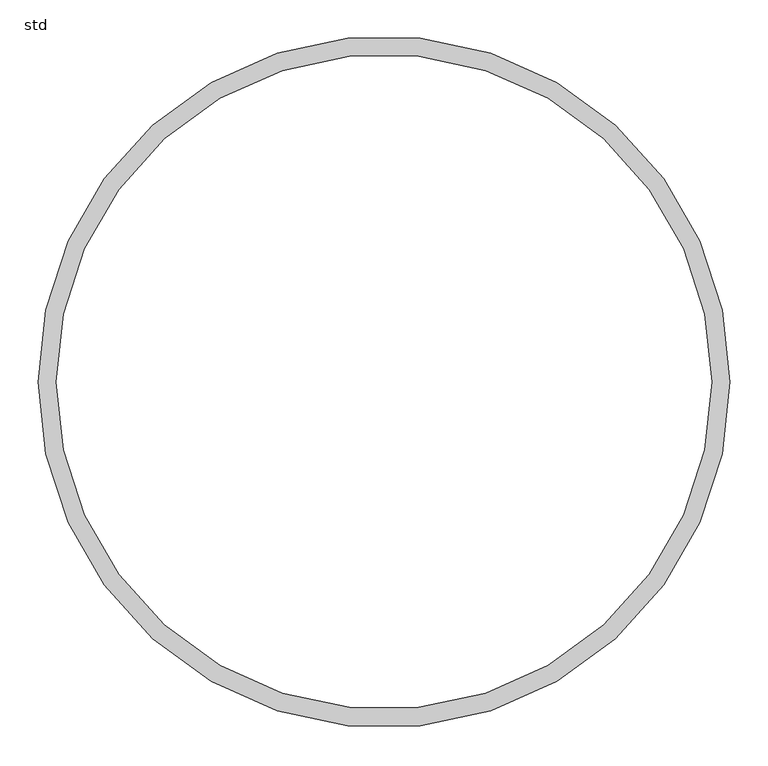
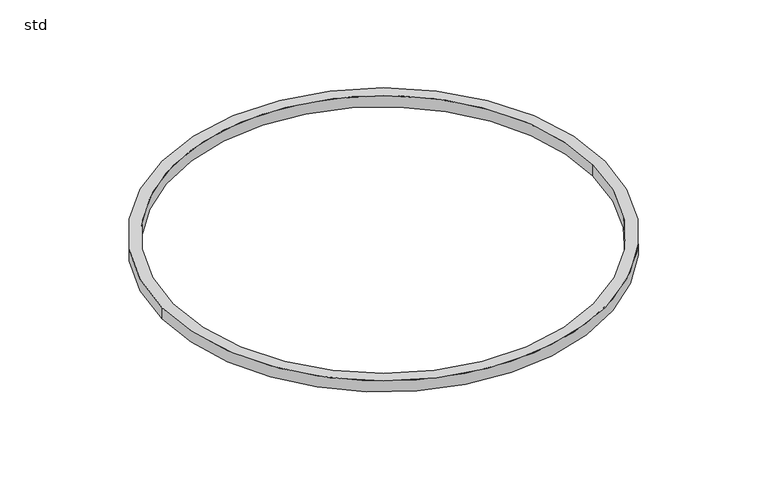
"""IFC4 building model written with IfcOpenShell, lengths in millimetres: pipe fitting geometry, NLRS_52_PIF_WPB_Ultra Kyma dichtingsring SH_Dyka : std."""

from ifc_helpers import new_model, si_unit, point, origin, origin_with_axes, origin_2d, place, context, project, spatial, circle_curve, trimmed, segment, composite_curve, outline, extrude, source, transform, mapped, element, save


def std_6883be76(model_context):
    return source(origin(), model_context, "Body", "SweptSolid", [
        extrude(outline(composite_curve([segment(trimmed(circle_curve(origin_2d(), 453.0), [point((-453.0, 0.0))], [point((453.0, 0.0))], False, "CARTESIAN"), True, "CONTINUOUS"), segment(trimmed(circle_curve(origin_2d(), 453.0), [point((453.0, 0.0))], [point((-453.0, 0.0))], False, "CARTESIAN"), True, "CONTINUOUS")], self_intersect=False), holes=[composite_curve([segment(trimmed(circle_curve(origin_2d(), 429.0), [point((429.0, 0.0))], [point((-429.0, 0.0))], True, "CARTESIAN"), True, "CONTINUOUS"), segment(trimmed(circle_curve(origin_2d(), 429.0), [point((-429.0, 0.0))], [point((429.0, 0.0))], True, "CARTESIAN"), True, "CONTINUOUS")], self_intersect=False)]), origin_with_axes(), (0.0, 0.0, 1.0), 24.0),
    ])


if __name__ == "__main__":
    model = new_model("IFC4")
    model_context = context("Model", 3, world=origin())
    ifc_project = project(units=[si_unit("LENGTHUNIT", "METRE", prefix="MILLI")], contexts=[model_context])
    site = spatial("IfcSite", under=ifc_project)
    building = spatial("IfcBuilding", under=site)
    placement = place(None, origin())
    std_shape = std_6883be76(model_context)
    element("IfcPipeFitting", 1, ObjectType="NLRS_52_PIF_WPB_Ultra Kyma dichtingsring SH_Dyka : std", at=placement, inside=building, context=model_context, shape_type="MappedRepresentation", body=[
        mapped(std_shape, transform((0.0, 0.0, 0.0), x_axis=(1.0, 0.0, 0.0), y_axis=(0.0, 1.0, 0.0), z_axis=(0.0, 0.0, 1.0))),
    ])
    save(model, "model.ifc")
